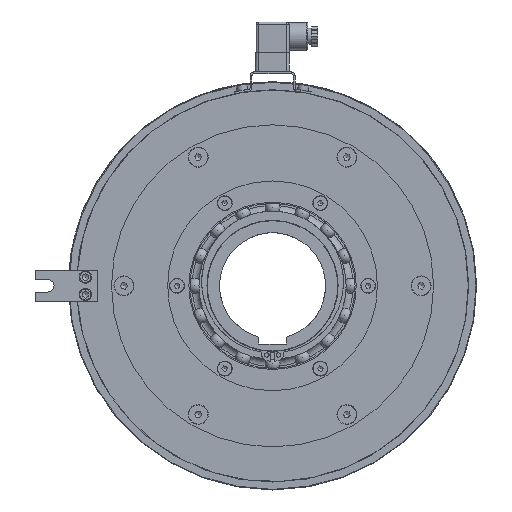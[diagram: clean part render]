
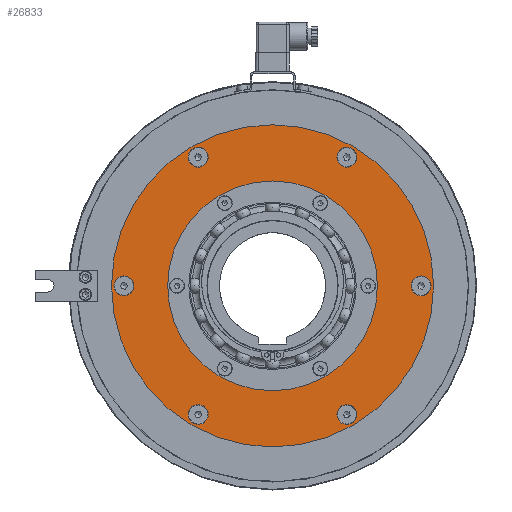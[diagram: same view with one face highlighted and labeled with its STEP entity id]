
A CAD part, left-side view. The second image highlights one B-rep face of the part: STEP entity #26833.
In plain terms, the highlighted planar face has unit normal (-1, 0, 0).
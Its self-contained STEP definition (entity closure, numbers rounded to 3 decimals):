
#1882=FACE_BOUND('',#5387,.T.);
#1883=FACE_BOUND('',#5388,.T.);
#1884=FACE_BOUND('',#5389,.T.);
#1885=FACE_BOUND('',#5390,.T.);
#1886=FACE_BOUND('',#5391,.T.);
#1887=FACE_BOUND('',#5392,.T.);
#1888=FACE_BOUND('',#5393,.T.);
#2336=PLANE('',#30002);
#3648=FACE_OUTER_BOUND('',#5386,.T.);
#5386=EDGE_LOOP('',(#24152,#24153));
#5387=EDGE_LOOP('',(#24154,#24155));
#5388=EDGE_LOOP('',(#24156,#24157));
#5389=EDGE_LOOP('',(#24158,#24159));
#5390=EDGE_LOOP('',(#24160,#24161));
#5391=EDGE_LOOP('',(#24162,#24163));
#5392=EDGE_LOOP('',(#24164,#24165));
#5393=EDGE_LOOP('',(#24166,#24167));
#9715=CIRCLE('',#29008,84.);
#9716=CIRCLE('',#29009,84.);
#10335=CIRCLE('',#30000,129.);
#10336=CIRCLE('',#30001,129.);
#10337=CIRCLE('',#30003,8.);
#10338=CIRCLE('',#30004,8.);
#10339=CIRCLE('',#30005,8.);
#10340=CIRCLE('',#30006,8.);
#10341=CIRCLE('',#30007,8.);
#10342=CIRCLE('',#30008,8.);
#10343=CIRCLE('',#30009,8.);
#10344=CIRCLE('',#30010,8.);
#10345=CIRCLE('',#30011,8.);
#10346=CIRCLE('',#30012,8.);
#10347=CIRCLE('',#30013,8.);
#10348=CIRCLE('',#30014,8.);
#12041=VERTEX_POINT('',#43870);
#12042=VERTEX_POINT('',#43872);
#12917=VERTEX_POINT('',#49804);
#12918=VERTEX_POINT('',#49806);
#12919=VERTEX_POINT('',#49810);
#12920=VERTEX_POINT('',#49811);
#12921=VERTEX_POINT('',#49814);
#12922=VERTEX_POINT('',#49815);
#12923=VERTEX_POINT('',#49818);
#12924=VERTEX_POINT('',#49819);
#12925=VERTEX_POINT('',#49822);
#12926=VERTEX_POINT('',#49823);
#12927=VERTEX_POINT('',#49826);
#12928=VERTEX_POINT('',#49827);
#12929=VERTEX_POINT('',#49830);
#12930=VERTEX_POINT('',#49831);
#15516=EDGE_CURVE('',#12042,#12041,#9715,.T.);
#15517=EDGE_CURVE('',#12041,#12042,#9716,.T.);
#16732=EDGE_CURVE('',#12917,#12918,#10335,.T.);
#16733=EDGE_CURVE('',#12918,#12917,#10336,.T.);
#16734=EDGE_CURVE('',#12919,#12920,#10337,.T.);
#16735=EDGE_CURVE('',#12920,#12919,#10338,.T.);
#16736=EDGE_CURVE('',#12921,#12922,#10339,.T.);
#16737=EDGE_CURVE('',#12922,#12921,#10340,.T.);
#16738=EDGE_CURVE('',#12923,#12924,#10341,.T.);
#16739=EDGE_CURVE('',#12924,#12923,#10342,.T.);
#16740=EDGE_CURVE('',#12925,#12926,#10343,.T.);
#16741=EDGE_CURVE('',#12926,#12925,#10344,.T.);
#16742=EDGE_CURVE('',#12927,#12928,#10345,.T.);
#16743=EDGE_CURVE('',#12928,#12927,#10346,.T.);
#16744=EDGE_CURVE('',#12929,#12930,#10347,.T.);
#16745=EDGE_CURVE('',#12930,#12929,#10348,.T.);
#24152=ORIENTED_EDGE('',*,*,#16733,.F.);
#24153=ORIENTED_EDGE('',*,*,#16732,.F.);
#24154=ORIENTED_EDGE('',*,*,#16734,.T.);
#24155=ORIENTED_EDGE('',*,*,#16735,.T.);
#24156=ORIENTED_EDGE('',*,*,#16736,.T.);
#24157=ORIENTED_EDGE('',*,*,#16737,.T.);
#24158=ORIENTED_EDGE('',*,*,#16738,.T.);
#24159=ORIENTED_EDGE('',*,*,#16739,.T.);
#24160=ORIENTED_EDGE('',*,*,#16740,.T.);
#24161=ORIENTED_EDGE('',*,*,#16741,.T.);
#24162=ORIENTED_EDGE('',*,*,#16742,.T.);
#24163=ORIENTED_EDGE('',*,*,#16743,.T.);
#24164=ORIENTED_EDGE('',*,*,#16744,.T.);
#24165=ORIENTED_EDGE('',*,*,#16745,.T.);
#24166=ORIENTED_EDGE('',*,*,#15516,.T.);
#24167=ORIENTED_EDGE('',*,*,#15517,.T.);
#26833=ADVANCED_FACE('',(#3648,#1882,#1883,#1884,#1885,#1886,#1887,#1888),
#2336,.T.);
#29008=AXIS2_PLACEMENT_3D('',#43873,#35185,#35186);
#29009=AXIS2_PLACEMENT_3D('',#43874,#35187,#35188);
#30000=AXIS2_PLACEMENT_3D('',#49807,#37466,#37467);
#30001=AXIS2_PLACEMENT_3D('',#49808,#37468,#37469);
#30002=AXIS2_PLACEMENT_3D('',#49809,#37470,#37471);
#30003=AXIS2_PLACEMENT_3D('',#49812,#37472,#37473);
#30004=AXIS2_PLACEMENT_3D('',#49813,#37474,#37475);
#30005=AXIS2_PLACEMENT_3D('',#49816,#37476,#37477);
#30006=AXIS2_PLACEMENT_3D('',#49817,#37478,#37479);
#30007=AXIS2_PLACEMENT_3D('',#49820,#37480,#37481);
#30008=AXIS2_PLACEMENT_3D('',#49821,#37482,#37483);
#30009=AXIS2_PLACEMENT_3D('',#49824,#37484,#37485);
#30010=AXIS2_PLACEMENT_3D('',#49825,#37486,#37487);
#30011=AXIS2_PLACEMENT_3D('',#49828,#37488,#37489);
#30012=AXIS2_PLACEMENT_3D('',#49829,#37490,#37491);
#30013=AXIS2_PLACEMENT_3D('',#49832,#37492,#37493);
#30014=AXIS2_PLACEMENT_3D('',#49833,#37494,#37495);
#35185=DIRECTION('center_axis',(1.,0.,0.));
#35186=DIRECTION('ref_axis',(0.,1.,0.));
#35187=DIRECTION('center_axis',(1.,0.,0.));
#35188=DIRECTION('ref_axis',(0.,1.,0.));
#37466=DIRECTION('center_axis',(1.,0.,0.));
#37467=DIRECTION('ref_axis',(0.,1.,0.));
#37468=DIRECTION('center_axis',(1.,0.,0.));
#37469=DIRECTION('ref_axis',(0.,1.,0.));
#37470=DIRECTION('center_axis',(-1.,0.,0.));
#37471=DIRECTION('ref_axis',(0.,0.,1.));
#37472=DIRECTION('center_axis',(1.,0.,0.));
#37473=DIRECTION('ref_axis',(0.,0.,1.));
#37474=DIRECTION('center_axis',(1.,0.,0.));
#37475=DIRECTION('ref_axis',(0.,0.,1.));
#37476=DIRECTION('center_axis',(1.,0.,0.));
#37477=DIRECTION('ref_axis',(0.,0.,1.));
#37478=DIRECTION('center_axis',(1.,0.,0.));
#37479=DIRECTION('ref_axis',(0.,0.,1.));
#37480=DIRECTION('center_axis',(1.,0.,0.));
#37481=DIRECTION('ref_axis',(0.,0.,1.));
#37482=DIRECTION('center_axis',(1.,0.,0.));
#37483=DIRECTION('ref_axis',(0.,0.,1.));
#37484=DIRECTION('center_axis',(1.,0.,0.));
#37485=DIRECTION('ref_axis',(0.,0.,1.));
#37486=DIRECTION('center_axis',(1.,0.,0.));
#37487=DIRECTION('ref_axis',(0.,0.,1.));
#37488=DIRECTION('center_axis',(1.,0.,0.));
#37489=DIRECTION('ref_axis',(0.,0.,1.));
#37490=DIRECTION('center_axis',(1.,0.,0.));
#37491=DIRECTION('ref_axis',(0.,0.,1.));
#37492=DIRECTION('center_axis',(1.,0.,0.));
#37493=DIRECTION('ref_axis',(0.,0.,1.));
#37494=DIRECTION('center_axis',(1.,0.,0.));
#37495=DIRECTION('ref_axis',(0.,0.,1.));
#43870=CARTESIAN_POINT('',(-31.,-84.,0.));
#43872=CARTESIAN_POINT('',(-31.,84.,0.));
#43873=CARTESIAN_POINT('Origin',(-31.,0.,0.));
#43874=CARTESIAN_POINT('Origin',(-31.,0.,0.));
#49804=CARTESIAN_POINT('',(-31.,-129.,0.));
#49806=CARTESIAN_POINT('',(-31.,129.,0.));
#49807=CARTESIAN_POINT('Origin',(-31.,0.,0.));
#49808=CARTESIAN_POINT('Origin',(-31.,0.,0.));
#49809=CARTESIAN_POINT('Origin',(-31.,106.5,0.));
#49810=CARTESIAN_POINT('',(-31.,59.5,111.057));
#49811=CARTESIAN_POINT('',(-31.,59.5,95.057));
#49812=CARTESIAN_POINT('Origin',(-31.,59.5,103.057));
#49813=CARTESIAN_POINT('Origin',(-31.,59.5,103.057));
#49814=CARTESIAN_POINT('',(-31.,-59.5,111.057));
#49815=CARTESIAN_POINT('',(-31.,-59.5,95.057));
#49816=CARTESIAN_POINT('Origin',(-31.,-59.5,103.057));
#49817=CARTESIAN_POINT('Origin',(-31.,-59.5,103.057));
#49818=CARTESIAN_POINT('',(-31.,-119.,8.));
#49819=CARTESIAN_POINT('',(-31.,-119.,-8.));
#49820=CARTESIAN_POINT('Origin',(-31.,-119.,0.));
#49821=CARTESIAN_POINT('Origin',(-31.,-119.,0.));
#49822=CARTESIAN_POINT('',(-31.,-59.5,-95.057));
#49823=CARTESIAN_POINT('',(-31.,-59.5,-111.057));
#49824=CARTESIAN_POINT('Origin',(-31.,-59.5,-103.057));
#49825=CARTESIAN_POINT('Origin',(-31.,-59.5,-103.057));
#49826=CARTESIAN_POINT('',(-31.,59.5,-95.057));
#49827=CARTESIAN_POINT('',(-31.,59.5,-111.057));
#49828=CARTESIAN_POINT('Origin',(-31.,59.5,-103.057));
#49829=CARTESIAN_POINT('Origin',(-31.,59.5,-103.057));
#49830=CARTESIAN_POINT('',(-31.,119.,8.));
#49831=CARTESIAN_POINT('',(-31.,119.,-8.));
#49832=CARTESIAN_POINT('Origin',(-31.,119.,0.));
#49833=CARTESIAN_POINT('Origin',(-31.,119.,0.));
